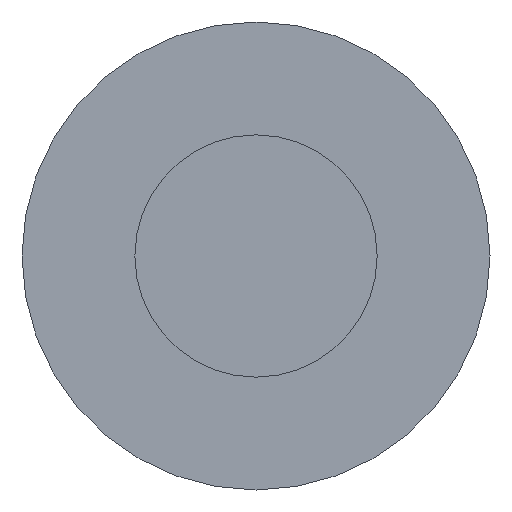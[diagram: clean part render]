
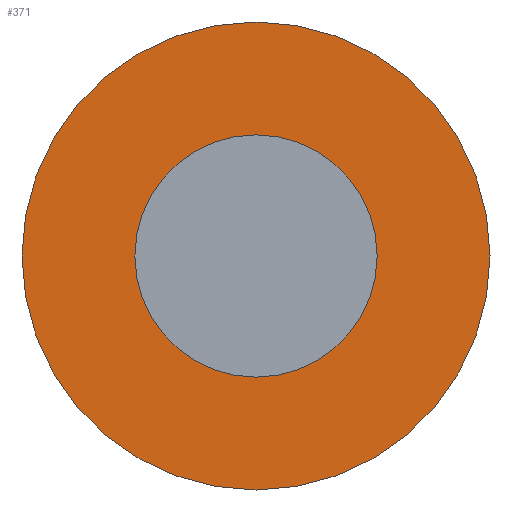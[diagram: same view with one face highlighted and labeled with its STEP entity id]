
A CAD part, left-side view. The second image highlights one B-rep face of the part: STEP entity #371.
In plain terms, the highlighted planar face has unit normal (-1, 0, 0).
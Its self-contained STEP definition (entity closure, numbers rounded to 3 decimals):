
#191 = CYLINDRICAL_SURFACE('',#192,4.25);
#192 = AXIS2_PLACEMENT_3D('',#193,#194,#195);
#193 = CARTESIAN_POINT('',(92.05,0.,0.));
#194 = DIRECTION('',(1.,-0.,-0.));
#195 = DIRECTION('',(-0.,1.,-0.));
#313 = VERTEX_POINT('',#314);
#314 = CARTESIAN_POINT('',(91.25,4.25,0.));
#335 = EDGE_CURVE('',#313,#313,#336,.T.);
#336 = SURFACE_CURVE('',#337,(#342,#349),.PCURVE_S1.);
#337 = CIRCLE('',#338,4.25);
#338 = AXIS2_PLACEMENT_3D('',#339,#340,#341);
#339 = CARTESIAN_POINT('',(91.25,0.,0.));
#340 = DIRECTION('',(1.,0.,0.));
#341 = DIRECTION('',(-0.,1.,-0.));
#342 = PCURVE('',#191,#343);
#343 = DEFINITIONAL_REPRESENTATION('',(#344),#348);
#344 = LINE('',#345,#346);
#345 = CARTESIAN_POINT('',(0.,-0.8));
#346 = VECTOR('',#347,1.);
#347 = DIRECTION('',(1.,0.));
#348 = ( GEOMETRIC_REPRESENTATION_CONTEXT(2) 
PARAMETRIC_REPRESENTATION_CONTEXT() REPRESENTATION_CONTEXT('2D SPACE',''
  ) );
#349 = PCURVE('',#350,#355);
#350 = PLANE('',#351);
#351 = AXIS2_PLACEMENT_3D('',#352,#353,#354);
#352 = CARTESIAN_POINT('',(91.25,0.,0.)
  );
#353 = DIRECTION('',(-1.,-0.,-0.));
#354 = DIRECTION('',(0.,0.,-1.));
#355 = DEFINITIONAL_REPRESENTATION('',(#356),#364);
#356 = ( BOUNDED_CURVE() B_SPLINE_CURVE(2,(#357,#358,#359,#360,#361,#362
,#363),.UNSPECIFIED.,.T.,.F.) B_SPLINE_CURVE_WITH_KNOTS((1,2,2,2,2,1),(
    -2.094,0.,2.094,4.189,6.283,
8.378),.UNSPECIFIED.) CURVE() GEOMETRIC_REPRESENTATION_ITEM() 
RATIONAL_B_SPLINE_CURVE((1.,0.5,1.,0.5,1.,0.5,1.)) REPRESENTATION_ITEM(
  '') );
#357 = CARTESIAN_POINT('',(0.,-4.25));
#358 = CARTESIAN_POINT('',(-7.361,-4.25));
#359 = CARTESIAN_POINT('',(-3.681,2.125));
#360 = CARTESIAN_POINT('',(0.,8.5));
#361 = CARTESIAN_POINT('',(3.681,2.125));
#362 = CARTESIAN_POINT('',(7.361,-4.25));
#363 = CARTESIAN_POINT('',(0.,-4.25));
#364 = ( GEOMETRIC_REPRESENTATION_CONTEXT(2) 
PARAMETRIC_REPRESENTATION_CONTEXT() REPRESENTATION_CONTEXT('2D SPACE',''
  ) );
#371 = ADVANCED_FACE('',(#372,#375),#350,.T.);
#372 = FACE_BOUND('',#373,.F.);
#373 = EDGE_LOOP('',(#374));
#374 = ORIENTED_EDGE('',*,*,#335,.T.);
#375 = FACE_BOUND('',#376,.F.);
#376 = EDGE_LOOP('',(#377));
#377 = ORIENTED_EDGE('',*,*,#378,.T.);
#378 = EDGE_CURVE('',#379,#379,#381,.T.);
#379 = VERTEX_POINT('',#380);
#380 = CARTESIAN_POINT('',(91.25,2.2,0.));
#381 = SURFACE_CURVE('',#382,(#387,#394),.PCURVE_S1.);
#382 = CIRCLE('',#383,2.2);
#383 = AXIS2_PLACEMENT_3D('',#384,#385,#386);
#384 = CARTESIAN_POINT('',(91.25,0.,0.));
#385 = DIRECTION('',(-1.,0.,0.));
#386 = DIRECTION('',(-0.,1.,-0.));
#387 = PCURVE('',#350,#388);
#388 = DEFINITIONAL_REPRESENTATION('',(#389),#393);
#389 = CIRCLE('',#390,2.2);
#390 = AXIS2_PLACEMENT_2D('',#391,#392);
#391 = CARTESIAN_POINT('',(0.,0.));
#392 = DIRECTION('',(-0.,-1.));
#393 = ( GEOMETRIC_REPRESENTATION_CONTEXT(2) 
PARAMETRIC_REPRESENTATION_CONTEXT() REPRESENTATION_CONTEXT('2D SPACE',''
  ) );
#394 = PCURVE('',#395,#400);
#395 = CYLINDRICAL_SURFACE('',#396,2.2);
#396 = AXIS2_PLACEMENT_3D('',#397,#398,#399);
#397 = CARTESIAN_POINT('',(100.1,0.,0.));
#398 = DIRECTION('',(1.,-0.,-0.));
#399 = DIRECTION('',(-0.,1.,-0.));
#400 = DEFINITIONAL_REPRESENTATION('',(#401),#405);
#401 = LINE('',#402,#403);
#402 = CARTESIAN_POINT('',(6.283,-8.85));
#403 = VECTOR('',#404,1.);
#404 = DIRECTION('',(-1.,0.));
#405 = ( GEOMETRIC_REPRESENTATION_CONTEXT(2) 
PARAMETRIC_REPRESENTATION_CONTEXT() REPRESENTATION_CONTEXT('2D SPACE',''
  ) );
